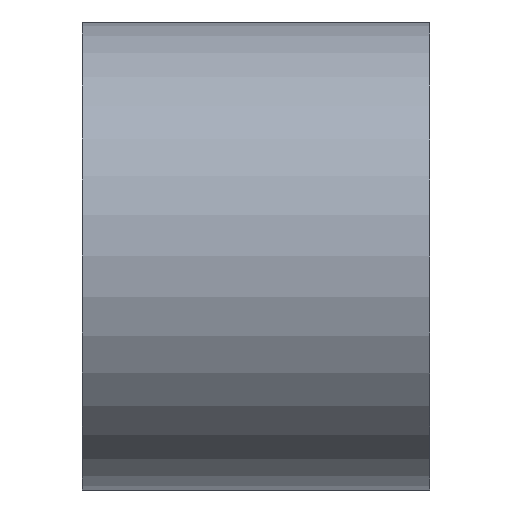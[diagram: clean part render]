
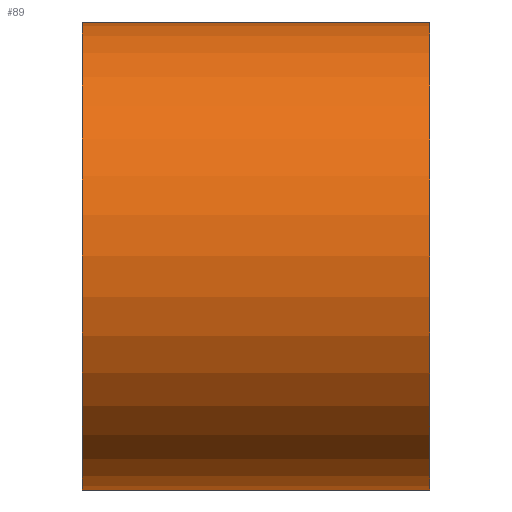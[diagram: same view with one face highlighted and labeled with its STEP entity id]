
A CAD part, left-side view. The second image highlights one B-rep face of the part: STEP entity #89.
In plain terms, the highlighted cylindrical face has radius 9.207 mm (diameter 18.415 mm), a partial arc.
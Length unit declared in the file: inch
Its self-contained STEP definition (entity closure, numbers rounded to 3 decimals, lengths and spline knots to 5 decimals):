
#4 = DIRECTION ( 'NONE',  ( 0., -1., 0. ) ) ;
#31 = CARTESIAN_POINT ( 'NONE',  ( -0.88, 0.438, 0.3625 ) ) ;
#51 = VECTOR ( 'NONE', #430, 39.37008 ) ;
#52 = DIRECTION ( 'NONE',  ( 1., 0., 0. ) ) ;
#64 = CARTESIAN_POINT ( 'NONE',  ( -0.88, 0.438, 0.3625 ) ) ;
#72 = CYLINDRICAL_SURFACE ( 'NONE', #286, 0.3625 ) ;
#89 = ADVANCED_FACE ( 'NONE', ( #148 ), #72, .T. ) ;
#112 = CARTESIAN_POINT ( 'NONE',  ( -0.88, 0.438, 0. ) ) ;
#119 = VERTEX_POINT ( 'NONE', #486 ) ;
#128 = CARTESIAN_POINT ( 'NONE',  ( -0.88, 0.438, 0. ) ) ;
#140 = EDGE_CURVE ( 'NONE', #166, #395, #334, .T. ) ;
#148 = FACE_OUTER_BOUND ( 'NONE', #476, .T. ) ;
#166 = VERTEX_POINT ( 'NONE', #64 ) ;
#175 = ORIENTED_EDGE ( 'NONE', *, *, #358, .F. ) ;
#189 = CARTESIAN_POINT ( 'NONE',  ( -0.88, -0.1, -0.3625 ) ) ;
#203 = CIRCLE ( 'NONE', #393, 0.3625 ) ;
#217 = DIRECTION ( 'NONE',  ( 0., 1., 0. ) ) ;
#230 = AXIS2_PLACEMENT_3D ( 'NONE', #128, #217, #52 ) ;
#231 = DIRECTION ( 'NONE',  ( 0., 0., -1. ) ) ;
#232 = EDGE_CURVE ( 'NONE', #119, #465, #457, .T. ) ;
#241 = ORIENTED_EDGE ( 'NONE', *, *, #140, .F. ) ;
#247 = VECTOR ( 'NONE', #341, 39.37008 ) ;
#263 = DIRECTION ( 'NONE',  ( 0., -1., 0. ) ) ;
#286 = AXIS2_PLACEMENT_3D ( 'NONE', #112, #263, #231 ) ;
#299 = CARTESIAN_POINT ( 'NONE',  ( -0.88, -0.1, 0.3625 ) ) ;
#316 = DIRECTION ( 'NONE',  ( 0., 0., -1. ) ) ;
#334 = LINE ( 'NONE', #31, #247 ) ;
#337 = EDGE_CURVE ( 'NONE', #395, #465, #203, .T. ) ;
#341 = DIRECTION ( 'NONE',  ( 0., -1., 0. ) ) ;
#345 = CARTESIAN_POINT ( 'NONE',  ( -0.88, -0.1, 0. ) ) ;
#350 = CARTESIAN_POINT ( 'NONE',  ( -0.88, 0.438, -0.3625 ) ) ;
#358 = EDGE_CURVE ( 'NONE', #119, #166, #444, .T. ) ;
#388 = ORIENTED_EDGE ( 'NONE', *, *, #337, .F. ) ;
#393 = AXIS2_PLACEMENT_3D ( 'NONE', #345, #4, #316 ) ;
#395 = VERTEX_POINT ( 'NONE', #299 ) ;
#430 = DIRECTION ( 'NONE',  ( 0., -1., 0. ) ) ;
#439 = ORIENTED_EDGE ( 'NONE', *, *, #232, .T. ) ;
#444 = CIRCLE ( 'NONE', #230, 0.3625 ) ;
#457 = LINE ( 'NONE', #350, #51 ) ;
#465 = VERTEX_POINT ( 'NONE', #189 ) ;
#476 = EDGE_LOOP ( 'NONE', ( #439, #388, #241, #175 ) ) ;
#486 = CARTESIAN_POINT ( 'NONE',  ( -0.88, 0.438, -0.3625 ) ) ;
